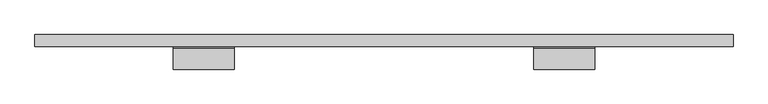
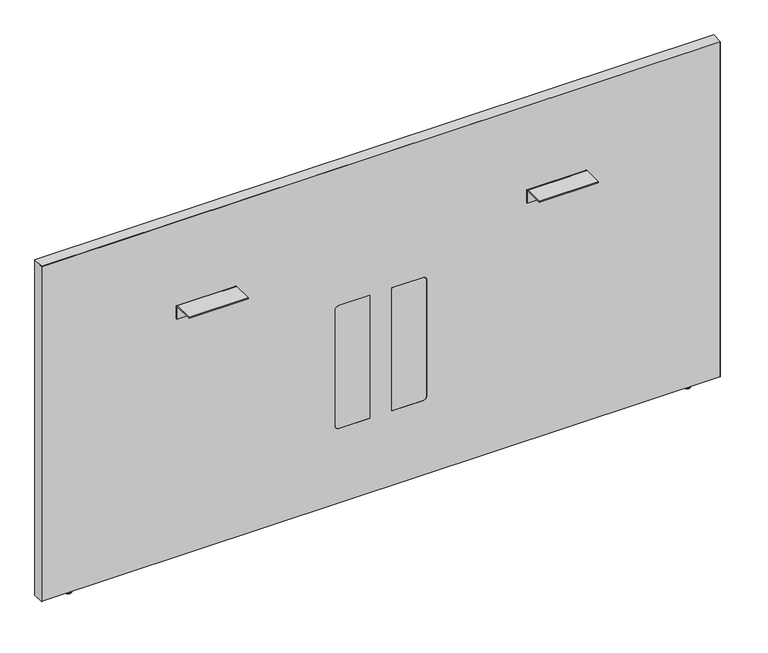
"""IFC4 building model written with IfcOpenShell, lengths in millimetres: furniture geometry, Steelcase - Answer Solution - Boundary Screen - Straight - Spanning : 36H x 69W."""

from ifc_helpers import new_model, si_unit, point, frame, frame_2d, origin, place, context, project, spatial, polyline, circle_curve, ellipse_curve, trimmed, segment, composite_curve, outline, extrude, source, transform, mapped, element, save
from ifc_brep_helpers import plane_surface, cylinder_surface, revolved_surface, advanced_brep


def furniture_f91f4338(model_context):
    return source(origin(), model_context, "Body", "SolidModel", [
        advanced_brep(
        [(-569.2902705, -14.8449166, 9.9059849), (-569.2902705, -5.9309607, 9.9059849), (-569.2902705, -23.7588726, 9.9059849), (-569.2902705, -5.9309607, 2.9673238), (-569.2902705, -23.7588726, 2.9673238), (-569.2902705, -6.8982978, 2.9673238), (-569.2902705, -22.7915354, 2.9673238), (-569.2902705, -6.8982978, 1.6569081), (-569.2902705, -22.7915354, 1.6569081), (-569.2902705, -8.5552059, 0.0), (-569.2902705, -21.1346274, 0.0), (-569.2902705, -14.8449166, 0.0)],
        [
            (0, 1),
            (1, 2, circle_curve(frame((-569.2902705, -14.8449166, 9.9059849), z_axis=(0.0, 0.0, 1.0), x_axis=(0.0, 1.0, 0.0)), 8.913956)),
            (2, 0),
            (2, 1, circle_curve(frame((-569.2902705, -14.8449166, 9.9059849), z_axis=(0.0, 0.0, 1.0), x_axis=(0.0, 1.0, 0.0)), 8.913956)),
            (1, 3),
            (3, 4, circle_curve(frame((-569.2902705, -14.8449166, 2.9673238), z_axis=(0.0, 0.0, 1.0), x_axis=(0.0, 1.0, 0.0)), 8.913956)),
            (4, 2),
            (4, 3, circle_curve(frame((-569.2902705, -14.8449166, 2.9673238), z_axis=(0.0, 0.0, 1.0), x_axis=(0.0, 1.0, 0.0)), 8.913956)),
            (3, 5),
            (5, 6, circle_curve(frame((-569.2902705, -14.8449166, 2.9673238), z_axis=(0.0, 0.0, 1.0), x_axis=(0.0, 1.0, 0.0)), 7.9466188)),
            (6, 4),
            (6, 5, circle_curve(frame((-569.2902705, -14.8449166, 2.9673238), z_axis=(0.0, 0.0, 1.0), x_axis=(0.0, 1.0, 0.0)), 7.9466188)),
            (5, 7),
            (7, 8, circle_curve(frame((-569.2902705, -14.8449166, 1.6569081), z_axis=(0.0, 0.0, 1.0), x_axis=(0.0, 1.0, 0.0)), 7.9466188)),
            (8, 6),
            (8, 7, circle_curve(frame((-569.2902705, -14.8449166, 1.6569081), z_axis=(0.0, 0.0, 1.0), x_axis=(0.0, 1.0, 0.0)), 7.9466188)),
            (7, 9, circle_curve(frame((-569.2902705, -8.5552059, 1.6569081), z_axis=(-1.0, 0.0, 0.0), x_axis=(0.0, 1.0, 0.0)), 1.6569081)),
            (9, 10, circle_curve(frame((-569.2902705, -14.8449166, 0.0), z_axis=(0.0, 0.0, 1.0), x_axis=(0.0, 1.0, 0.0)), 6.2897107)),
            (10, 8, circle_curve(frame((-569.2902705, -21.1346274, 1.6569081), z_axis=(-1.0, 0.0, 0.0), x_axis=(0.0, -1.0, 0.0)), 1.6569081)),
            (10, 9, circle_curve(frame((-569.2902705, -14.8449166, 0.0), z_axis=(0.0, 0.0, 1.0), x_axis=(0.0, 1.0, 0.0)), 6.2897107)),
            (9, 11),
            (11, 10),
        ],
        [
            plane_surface(frame((-569.2902705, -14.8449166, 9.9059849), z_axis=(0.0, 0.0, 1.0), x_axis=(0.0, 1.0, 0.0))),
            cylinder_surface(frame((-569.2902705, -14.8449166, 9.9059849), z_axis=(0.0, 0.0, 1.0), x_axis=(0.0, 1.0, 0.0)), 8.913956),
            plane_surface(frame((-569.2902705, -14.8449166, 2.9673238), z_axis=(0.0, 0.0, -1.0), x_axis=(0.0, 1.0, 0.0))),
            cylinder_surface(frame((-569.2902705, -14.8449166, 9.9059849), z_axis=(0.0, 0.0, 1.0), x_axis=(0.0, 1.0, 0.0)), 7.9466188),
            revolved_surface(trimmed(ellipse_curve(frame((-569.2902705, -8.5552059, 1.6569081), z_axis=(1.0, 0.0, 0.0), x_axis=(0.0, 1.0, 0.0)), 1.6569081, 1.6569081), [point((-569.2902705, -8.5552059, 0.0))], [point((-569.2902705, -6.8982978, 1.6569081))], True, "CARTESIAN"), (-569.2902705, -14.8449166, 9.9059849), (0.0, 0.0, 1.0)),
            plane_surface(frame((-569.2902705, -14.8449166, 0.0), z_axis=(0.0, 0.0, -1.0), x_axis=(0.0, 1.0, 0.0))),
        ],
        [
            (0, [[1, 2, 3]]),
            (0, [[-3, 4, -1]]),
            (1, [[-2, 5, 6, 7]]),
            (1, [[-4, -7, 8, -5]]),
            (2, [[-6, 9, 10, 11]]),
            (2, [[-8, -11, 12, -9]]),
            (3, [[-10, 13, 14, 15]]),
            (3, [[-12, -15, 16, -13]]),
            (4, [[-14, 17, 18, 19]]),
            (4, [[-16, -19, 20, -17]]),
            (5, [[-18, 21, 22]]),
            (5, [[-20, -22, -21]]),
        ],
    ),
        extrude(outline(composite_curve([segment(polyline([(-86.8398151, 696.4680019), (-86.8398151, 698.5), (-34.9450855, 698.5)]), True, "CONTINUOUS"), segment(trimmed(circle_curve(frame_2d((-34.9450855, 693.2447477)), 5.2552523), [point((-34.9450855, 698.5))], [point((-29.6898332, 693.2447477))], False, "CARTESIAN"), True, "CONTINUOUS"), segment(polyline([(-29.6898332, 693.2447477), (-29.6898332, 660.4), (-31.7218162, 660.4), (-31.7218162, 693.0058743)]), True, "CONTINUOUS"), segment(trimmed(circle_curve(frame_2d((-35.1839438, 693.0058743)), 3.4621276), [point((-31.7218162, 693.0058743))], [point((-35.1839438, 696.4680019))], True, "CARTESIAN"), True, "CONTINUOUS"), segment(polyline([(-35.1839438, 696.4680019), (-86.8398151, 696.4680019)]), True, "CONTINUOUS")], self_intersect=False)), frame((605.9282189, 0.0, 0.0), z_axis=(1.0, 0.0, 0.0), x_axis=(0.0, 1.0, 0.0)), (0.0, 0.0, 1.0), 152.4000969),
        extrude(outline(composite_curve([segment(polyline([(-86.8398151, 696.4680019), (-86.8398151, 698.5), (-34.9450855, 698.5)]), True, "CONTINUOUS"), segment(trimmed(circle_curve(frame_2d((-34.9450855, 693.2447477)), 5.2552523), [point((-34.9450855, 698.5))], [point((-29.6898332, 693.2447477))], False, "CARTESIAN"), True, "CONTINUOUS"), segment(polyline([(-29.6898332, 693.2447477), (-29.6898332, 660.4), (-31.7218162, 660.4), (-31.7218162, 693.0058743)]), True, "CONTINUOUS"), segment(trimmed(circle_curve(frame_2d((-35.1839438, 693.0058743)), 3.4621276), [point((-31.7218162, 693.0058743))], [point((-35.1839438, 696.4680019))], True, "CARTESIAN"), True, "CONTINUOUS"), segment(polyline([(-35.1839438, 696.4680019), (-86.8398151, 696.4680019)]), True, "CONTINUOUS")], self_intersect=False)), frame((-298.6884581, 0.0, 0.0), z_axis=(1.0, 0.0, 0.0), x_axis=(0.0, 1.0, 0.0)), (0.0, 0.0, 1.0), 152.4000969),
        advanced_brep(
        [(1028.9286488, -23.7588726, 9.9059849), (1028.9286488, -5.9309607, 9.9059849), (1028.9286488, -14.8449166, 9.9059849), (1028.9286488, -23.7588726, 2.9673238), (1028.9286488, -5.9309607, 2.9673238), (1028.9286488, -22.7915354, 2.9673238), (1028.9286488, -6.8982978, 2.9673238), (1028.9286488, -22.7915354, 1.6569081), (1028.9286488, -6.8982978, 1.6569081), (1028.9286488, -21.1346274, 0.0), (1028.9286488, -8.5552059, 0.0), (1028.9286488, -14.8449166, 0.0)],
        [
            (0, 1, circle_curve(frame((1028.9286488, -14.8449166, 9.9059849), z_axis=(0.0, 0.0, 1.0), x_axis=(0.0, 1.0, 0.0)), 8.913956)),
            (1, 2),
            (2, 0),
            (1, 0, circle_curve(frame((1028.9286488, -14.8449166, 9.9059849), z_axis=(0.0, 0.0, 1.0), x_axis=(0.0, 1.0, 0.0)), 8.913956)),
            (3, 4, circle_curve(frame((1028.9286488, -14.8449166, 2.9673238), z_axis=(0.0, 0.0, 1.0), x_axis=(0.0, 1.0, 0.0)), 8.913956)),
            (4, 1),
            (0, 3),
            (4, 3, circle_curve(frame((1028.9286488, -14.8449166, 2.9673238), z_axis=(0.0, 0.0, 1.0), x_axis=(0.0, 1.0, 0.0)), 8.913956)),
            (5, 6, circle_curve(frame((1028.9286488, -14.8449166, 2.9673238), z_axis=(0.0, 0.0, 1.0), x_axis=(0.0, 1.0, 0.0)), 7.9466188)),
            (6, 4),
            (3, 5),
            (6, 5, circle_curve(frame((1028.9286488, -14.8449166, 2.9673238), z_axis=(0.0, 0.0, 1.0), x_axis=(0.0, 1.0, 0.0)), 7.9466188)),
            (7, 8, circle_curve(frame((1028.9286488, -14.8449166, 1.6569081), z_axis=(0.0, 0.0, 1.0), x_axis=(0.0, 1.0, 0.0)), 7.9466188)),
            (8, 6),
            (5, 7),
            (8, 7, circle_curve(frame((1028.9286488, -14.8449166, 1.6569081), z_axis=(0.0, 0.0, 1.0), x_axis=(0.0, 1.0, 0.0)), 7.9466188)),
            (9, 10, circle_curve(frame((1028.9286488, -14.8449166, 0.0), z_axis=(0.0, 0.0, 1.0), x_axis=(0.0, 1.0, 0.0)), 6.2897107)),
            (10, 8, circle_curve(frame((1028.9286488, -8.5552059, 1.6569081), z_axis=(1.0, 0.0, 0.0), x_axis=(0.0, 1.0, 0.0)), 1.6569081)),
            (7, 9, circle_curve(frame((1028.9286488, -21.1346274, 1.6569081), z_axis=(1.0, 0.0, 0.0), x_axis=(0.0, -1.0, 0.0)), 1.6569081)),
            (10, 9, circle_curve(frame((1028.9286488, -14.8449166, 0.0), z_axis=(0.0, 0.0, 1.0), x_axis=(0.0, 1.0, 0.0)), 6.2897107)),
            (11, 10),
            (9, 11),
        ],
        [
            plane_surface(frame((1028.9286488, -14.8449166, 9.9059849), z_axis=(0.0, 0.0, 1.0), x_axis=(0.0, 1.0, 0.0))),
            cylinder_surface(frame((1028.9286488, -14.8449166, 9.9059849), z_axis=(0.0, 0.0, -1.0), x_axis=(0.0, 1.0, 0.0)), 8.913956),
            plane_surface(frame((1028.9286488, -14.8449166, 2.9673238), z_axis=(0.0, 0.0, -1.0), x_axis=(0.0, 1.0, 0.0))),
            cylinder_surface(frame((1028.9286488, -14.8449166, 9.9059849), z_axis=(0.0, 0.0, -1.0), x_axis=(0.0, 1.0, 0.0)), 7.9466188),
            revolved_surface(trimmed(ellipse_curve(frame((1028.9286488, -8.5552059, 1.6569081), z_axis=(-1.0, 0.0, 0.0), x_axis=(0.0, 1.0, 0.0)), 1.6569081, 1.6569081), [point((1028.9286488, -6.8982978, 1.6569081))], [point((1028.9286488, -8.5552059, 0.0))], True, "CARTESIAN"), (1028.9286488, -14.8449166, 9.9059849), (0.0, 0.0, -1.0)),
            plane_surface(frame((1028.9286488, -14.8449166, 0.0), z_axis=(0.0, 0.0, -1.0), x_axis=(0.0, 1.0, 0.0))),
        ],
        [
            (0, [[1, 2, 3]]),
            (0, [[4, -3, -2]]),
            (1, [[5, 6, -1, 7]]),
            (1, [[8, -7, -4, -6]]),
            (2, [[9, 10, -5, 11]]),
            (2, [[12, -11, -8, -10]]),
            (3, [[13, 14, -9, 15]]),
            (3, [[16, -15, -12, -14]]),
            (4, [[17, 18, -13, 19]]),
            (4, [[20, -19, -16, -18]]),
            (5, [[21, -17, 22]]),
            (5, [[-22, -20, -21]]),
        ],
    ),
        advanced_brep(
        [(1105.0780168, 0.0, 924.342118), (1105.0780168, 0.0, 9.9059849), (-645.4902221, 0.0, 9.9059849), (-645.4902221, 0.0, 924.342118), (1105.0780168, -29.6898332, 924.342118), (-645.4902221, -29.6898332, 924.342118), (-645.4902221, -29.6898332, 9.9059849), (1105.0780168, -29.6898332, 9.9059849), (337.7883813, -29.6898332, 549.6162029), (347.9483813, -29.6898332, 539.4562029), (347.9483813, -29.6898332, 223.9362137), (337.7883813, -29.6898332, 213.7762137), (258.1344836, -29.6898332, 213.7762137), (258.1344836, -29.6898332, 549.6162029), (121.849997, -29.6898332, 549.6162029), (201.5038947, -29.6898332, 549.6162029), (201.5038947, -29.6898332, 213.7762137), (121.849997, -29.6898332, 213.7762137), (111.689997, -29.6898332, 223.9362137), (111.689997, -29.6898332, 539.4562029), (258.1344836, -29.0550397, 549.6162029), (337.7883813, -29.0550397, 549.6162029), (258.1344836, -29.0550397, 213.7762137), (337.7883813, -29.0550397, 213.7762137), (347.9483813, -29.0550397, 223.9362137), (347.9483813, -29.0550397, 539.4562029), (121.849997, -29.0550397, 549.6162029), (111.689997, -29.0550397, 539.4562029), (111.689997, -29.0550397, 223.9362137), (121.849997, -29.0550397, 213.7762137), (201.5038947, -29.0550397, 213.7762137), (201.5038947, -29.0550397, 549.6162029)],
        [
            (0, 1),
            (1, 2),
            (2, 3),
            (3, 0),
            (4, 5),
            (5, 6),
            (6, 7),
            (7, 4),
            (8, 9, circle_curve(frame((337.7883813, -29.6898332, 539.4562029), z_axis=(0.0, 1.0, 0.0), x_axis=(0.0, 0.0, 1.0)), 10.16)),
            (9, 10),
            (10, 11, circle_curve(frame((337.7883813, -29.6898332, 223.9362137), z_axis=(0.0, 1.0, 0.0), x_axis=(0.0, 0.0, 1.0)), 10.16)),
            (11, 12),
            (12, 13),
            (13, 8),
            (14, 15),
            (15, 16),
            (16, 17),
            (17, 18, circle_curve(frame((121.849997, -29.6898332, 223.9362137), z_axis=(0.0, 1.0, 0.0), x_axis=(0.0, 0.0, 1.0)), 10.16)),
            (18, 19),
            (19, 14, circle_curve(frame((121.849997, -29.6898332, 539.4562029), z_axis=(0.0, 1.0, 0.0), x_axis=(0.0, 0.0, 1.0)), 10.16)),
            (0, 4),
            (7, 1),
            (6, 2),
            (5, 3),
            (13, 20),
            (20, 21),
            (21, 8),
            (12, 22),
            (22, 20),
            (11, 23),
            (23, 22),
            (10, 24),
            (24, 23, circle_curve(frame((337.7883813, -29.0550397, 223.9362137), z_axis=(0.0, 1.0, 0.0), x_axis=(0.0, 0.0, 1.0)), 10.16)),
            (9, 25),
            (25, 24),
            (21, 25, circle_curve(frame((337.7883813, -29.0550397, 539.4562029), z_axis=(0.0, 1.0, 0.0), x_axis=(0.0, 0.0, 1.0)), 10.16)),
            (26, 27, circle_curve(frame((121.849997, -29.0550397, 539.4562029), z_axis=(0.0, -1.0, 0.0), x_axis=(0.0, 0.0, 1.0)), 10.16)),
            (27, 28),
            (28, 29, circle_curve(frame((121.849997, -29.0550397, 223.9362137), z_axis=(0.0, -1.0, 0.0), x_axis=(0.0, 0.0, 1.0)), 10.16)),
            (29, 30),
            (30, 31),
            (31, 26),
            (19, 27),
            (26, 14),
            (18, 28),
            (17, 29),
            (16, 30),
            (15, 31),
        ],
        [
            plane_surface(frame((1105.0780168, 0.0, 924.342118), z_axis=(0.0, 1.0, 0.0), x_axis=(0.0, 0.0, -1.0))),
            plane_surface(frame((1105.0780168, -29.6898332, 924.342118), z_axis=(0.0, -1.0, 0.0), x_axis=(0.0, 0.0, 1.0))),
            plane_surface(frame((1105.0780168, 0.0, 924.342118), z_axis=(1.0, 0.0, 0.0), x_axis=(0.0, -1.0, 0.0))),
            plane_surface(frame((1105.0780168, 0.0, 9.9059849), z_axis=(0.0, 0.0, -1.0), x_axis=(0.0, -1.0, 0.0))),
            plane_surface(frame((-645.4902221, 0.0, 9.9059849), z_axis=(-1.0, 0.0, 0.0), x_axis=(0.0, -1.0, 0.0))),
            plane_surface(frame((-645.4902221, 0.0, 924.342118), z_axis=(0.0, 0.0, 1.0), x_axis=(0.0, -1.0, 0.0))),
            plane_surface(frame((337.7883813, 0.0, 549.6162029), z_axis=(0.0, 0.0, -1.0), x_axis=(0.0, -1.0, 0.0))),
            plane_surface(frame((258.1344836, 0.0, 549.6162029), z_axis=(1.0, 0.0, 0.0), x_axis=(0.0, -1.0, 0.0))),
            plane_surface(frame((258.1344836, 0.0, 213.7762137), z_axis=(0.0, 0.0, 1.0), x_axis=(0.0, -1.0, 0.0))),
            revolved_surface(polyline([(337.7883813, -29.6898332, 234.0962137), (337.7883813, -29.0550397, 234.0962137)]), (337.7883813, -29.6898332, 223.9362137), (0.0, -1.0, 0.0)),
            plane_surface(frame((347.9483813, 0.0, 223.9362137), z_axis=(-1.0, 0.0, 0.0), x_axis=(0.0, -1.0, 0.0))),
            revolved_surface(polyline([(337.7883813, -29.6898332, 549.6162029), (337.7883813, -29.0550397, 549.6162029)]), (337.7883813, -29.6898332, 539.4562029), (0.0, -1.0, 0.0)),
            plane_surface(frame((347.9483813, -29.0550397, 549.6162029), z_axis=(0.0, -1.0, 0.0), x_axis=(0.0, 0.0, 1.0))),
            revolved_surface(polyline([(121.849997, -29.6898332, 549.6162029), (121.849997, -29.0550397, 549.6162029)]), (121.849997, -29.6898332, 539.4562029), (0.0, -1.0, 0.0)),
            plane_surface(frame((111.689997, 0.0, 539.4562029), z_axis=(1.0, 0.0, 0.0), x_axis=(0.0, -1.0, 0.0))),
            revolved_surface(polyline([(121.849997, -29.6898332, 234.0962137), (121.849997, -29.0550397, 234.0962137)]), (121.849997, -29.6898332, 223.9362137), (0.0, -1.0, 0.0)),
            plane_surface(frame((121.849997, 0.0, 213.7762137), z_axis=(0.0, 0.0, 1.0), x_axis=(0.0, -1.0, 0.0))),
            plane_surface(frame((201.5038947, 0.0, 213.7762137), z_axis=(-1.0, 0.0, 0.0), x_axis=(0.0, -1.0, 0.0))),
            plane_surface(frame((201.5038947, 0.0, 549.6162029), z_axis=(0.0, 0.0, -1.0), x_axis=(0.0, -1.0, 0.0))),
        ],
        [
            (0, [[1, 2, 3, 4]]),
            (1, [[5, 6, 7, 8], [9, 10, 11, 12, 13, 14], [15, 16, 17, 18, 19, 20]]),
            (2, [[-1, 21, -8, 22]]),
            (3, [[-2, -22, -7, 23]]),
            (4, [[-3, -23, -6, 24]]),
            (5, [[-4, -24, -5, -21]]),
            (6, [[-14, 25, 26, 27]]),
            (7, [[-13, 28, 29, -25]]),
            (8, [[-12, 30, 31, -28]]),
            (9, [[-11, 32, 33, -30]]),
            (10, [[-10, 34, 35, -32]]),
            (11, [[-9, -27, 36, -34]]),
            (12, [[-26, -29, -31, -33, -35, -36]]),
            (12, [[37, 38, 39, 40, 41, 42]]),
            (13, [[-20, 43, -37, 44]]),
            (14, [[-19, 45, -38, -43]]),
            (15, [[-18, 46, -39, -45]]),
            (16, [[-17, 47, -40, -46]]),
            (17, [[-16, 48, -41, -47]]),
            (18, [[-15, -44, -42, -48]]),
        ],
    ),
        extrude(outline(composite_curve([segment(polyline([(549.6162029, 337.7883813), (549.6162029, 258.1344836), (213.7762137, 258.1344836), (213.7762137, 337.7883813)]), True, "CONTINUOUS"), segment(trimmed(circle_curve(frame_2d((223.9362137, 337.7883813)), 10.16), [point((213.7762137, 337.7883813))], [point((223.9362137, 347.9483813))], False, "CARTESIAN"), True, "CONTINUOUS"), segment(polyline([(223.9362137, 347.9483813), (539.4562029, 347.9483813)]), True, "CONTINUOUS"), segment(trimmed(circle_curve(frame_2d((539.4562029, 337.7883813)), 10.16), [point((539.4562029, 347.9483813))], [point((549.6162029, 337.7883813))], False, "CARTESIAN"), True, "CONTINUOUS")], self_intersect=False)), frame((0.0, -29.6898332, 0.0), z_axis=(0.0, 1.0, 0.0), x_axis=(0.0, 0.0, 1.0)), (0.0, 0.0, 1.0), 0.6347935),
        extrude(outline(composite_curve([segment(trimmed(circle_curve(frame_2d((539.4562029, 121.849997)), 10.16), [point((549.6162029, 121.849997))], [point((539.4562029, 111.689997))], False, "CARTESIAN"), True, "CONTINUOUS"), segment(polyline([(539.4562029, 111.689997), (223.9362137, 111.689997)]), True, "CONTINUOUS"), segment(trimmed(circle_curve(frame_2d((223.9362137, 121.849997)), 10.16), [point((223.9362137, 111.689997))], [point((213.7762137, 121.849997))], False, "CARTESIAN"), True, "CONTINUOUS"), segment(polyline([(213.7762137, 121.849997), (213.7762137, 201.5038947), (549.6162029, 201.5038947), (549.6162029, 121.849997)]), True, "CONTINUOUS")], self_intersect=False)), frame((0.0, -29.6898332, 0.0), z_axis=(0.0, 1.0, 0.0), x_axis=(0.0, 0.0, 1.0)), (0.0, 0.0, 1.0), 0.6347935),
        extrude(outline(polyline([(925.322, 1106.1191891), (925.322, -646.4808109), (9.9059849, -646.4808109), (9.9059849, -645.4902221), (924.342118, -645.4902221), (924.342118, 1105.0780168), (9.9059849, 1105.0780168), (9.9059849, 1106.1191891), (925.322, 1106.1191891)])), frame((0.0, -29.6898332, 0.0), z_axis=(0.0, 1.0, 0.0), x_axis=(0.0, 0.0, 1.0)), (0.0, 0.0, 1.0), 29.6898332),
    ])


if __name__ == "__main__":
    model = new_model("IFC4")
    model_context = context("Model", 3, world=origin())
    ifc_project = project(units=[si_unit("LENGTHUNIT", "METRE", prefix="MILLI")], contexts=[model_context])
    site = spatial("IfcSite", under=ifc_project)
    building = spatial("IfcBuilding", under=site)
    placement = place(None, origin())
    furniture_shape = furniture_f91f4338(model_context)
    element("IfcFurniture", 1, ObjectType="Steelcase - Answer Solution - Boundary Screen - Straight - Spanning : 36H x 69W", at=placement, inside=building, context=model_context, shape_type="MappedRepresentation", body=[
        mapped(furniture_shape, transform((0.0, 0.0, 0.0), x_axis=(1.0, 0.0, 0.0), y_axis=(0.0, 1.0, 0.0), z_axis=(0.0, 0.0, 1.0))),
    ])
    save(model, "model.ifc")
